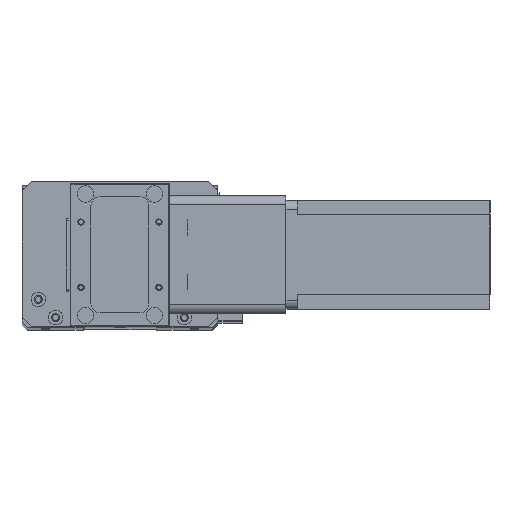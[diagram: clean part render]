
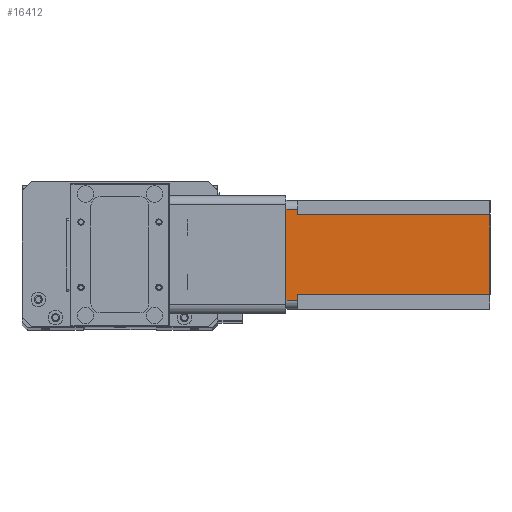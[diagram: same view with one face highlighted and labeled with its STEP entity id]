
A CAD part, top view. The second image highlights one B-rep face of the part: STEP entity #16412.
In plain terms, the highlighted planar face has unit normal (0, 0, 1) as drawn and (0, 1, 0) by its records, which use the part's own axes.
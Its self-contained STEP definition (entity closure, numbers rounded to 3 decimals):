
#187 = VECTOR ( 'NONE', #3103, 1000. ) ;
#1024 = CARTESIAN_POINT ( 'NONE',  ( 8., 60., -6.5 ) ) ;
#1511 = CARTESIAN_POINT ( 'NONE',  ( 52., 60., -6.5 ) ) ;
#1682 = EDGE_CURVE ( 'NONE', #12424, #18922, #6276, .T. ) ;
#1747 = DIRECTION ( 'NONE',  ( 0., 0., -1. ) ) ;
#1834 = ORIENTED_EDGE ( 'NONE', *, *, #15744, .F. ) ;
#2013 = ORIENTED_EDGE ( 'NONE', *, *, #17246, .F. ) ;
#2150 = CARTESIAN_POINT ( 'NONE',  ( 5., 60., 0. ) ) ;
#3103 = DIRECTION ( 'NONE',  ( -1., 0., 0. ) ) ;
#3205 = EDGE_CURVE ( 'NONE', #4960, #9604, #12959, .T. ) ;
#3436 = EDGE_CURVE ( 'NONE', #16788, #16448, #25509, .T. ) ;
#3839 = DIRECTION ( 'NONE',  ( -1., 0., 0. ) ) ;
#4960 = VERTEX_POINT ( 'NONE', #19496 ) ;
#4961 = DIRECTION ( 'NONE',  ( 0., 0., 1. ) ) ;
#6086 = LINE ( 'NONE', #6411, #16356 ) ;
#6088 = CARTESIAN_POINT ( 'NONE',  ( 0., 60., -112.5 ) ) ;
#6276 = LINE ( 'NONE', #1024, #187 ) ;
#6411 = CARTESIAN_POINT ( 'NONE',  ( 52., 60., -6.5 ) ) ;
#6953 = CARTESIAN_POINT ( 'NONE',  ( 0., 60., 0. ) ) ;
#7139 = ORIENTED_EDGE ( 'NONE', *, *, #3205, .T. ) ;
#7427 = VECTOR ( 'NONE', #10173, 1000. ) ;
#7479 = DIRECTION ( 'NONE',  ( 0., 0., 1. ) ) ;
#7484 = VECTOR ( 'NONE', #3839, 1000. ) ;
#7782 = VECTOR ( 'NONE', #23419, 1000. ) ;
#8089 = CARTESIAN_POINT ( 'NONE',  ( 55., 60., -112.5 ) ) ;
#8484 = DIRECTION ( 'NONE',  ( 1., 0., 0. ) ) ;
#9230 = EDGE_LOOP ( 'NONE', ( #24917, #19912, #16498, #2013, #7139, #1834, #26001, #14690 ) ) ;
#9604 = VERTEX_POINT ( 'NONE', #20096 ) ;
#10173 = DIRECTION ( 'NONE',  ( 0., 0., -1. ) ) ;
#10217 = DIRECTION ( 'NONE',  ( 0., 1., 0. ) ) ;
#11375 = FACE_OUTER_BOUND ( 'NONE', #9230, .T. ) ;
#11562 = EDGE_CURVE ( 'NONE', #14194, #13414, #6086, .T. ) ;
#12424 = VERTEX_POINT ( 'NONE', #22280 ) ;
#12959 = LINE ( 'NONE', #18165, #7484 ) ;
#13034 = LINE ( 'NONE', #23958, #13681 ) ;
#13414 = VERTEX_POINT ( 'NONE', #25791 ) ;
#13681 = VECTOR ( 'NONE', #7479, 1000. ) ;
#14179 = AXIS2_PLACEMENT_3D ( 'NONE', #6088, #10217, #24623 ) ;
#14194 = VERTEX_POINT ( 'NONE', #1511 ) ;
#14268 = PLANE ( 'NONE',  #14179 ) ;
#14690 = ORIENTED_EDGE ( 'NONE', *, *, #15635, .T. ) ;
#15260 = VECTOR ( 'NONE', #1747, 1000. ) ;
#15635 = EDGE_CURVE ( 'NONE', #18922, #16448, #13034, .T. ) ;
#15744 = EDGE_CURVE ( 'NONE', #12424, #9604, #25582, .T. ) ;
#16356 = VECTOR ( 'NONE', #8484, 1000. ) ;
#16412 = ADVANCED_FACE ( 'NONE', ( #11375 ), #14268, .T. ) ;
#16448 = VERTEX_POINT ( 'NONE', #2150 ) ;
#16498 = ORIENTED_EDGE ( 'NONE', *, *, #11562, .F. ) ;
#16788 = VERTEX_POINT ( 'NONE', #19486 ) ;
#17246 = EDGE_CURVE ( 'NONE', #4960, #14194, #23557, .T. ) ;
#17417 = VECTOR ( 'NONE', #4961, 1000. ) ;
#18165 = CARTESIAN_POINT ( 'NONE',  ( 0., 60., -112.5 ) ) ;
#18922 = VERTEX_POINT ( 'NONE', #20907 ) ;
#19320 = CARTESIAN_POINT ( 'NONE',  ( 52., 60., -112.5 ) ) ;
#19486 = CARTESIAN_POINT ( 'NONE',  ( 55., 60., 0. ) ) ;
#19496 = CARTESIAN_POINT ( 'NONE',  ( 52., 60., -112.5 ) ) ;
#19912 = ORIENTED_EDGE ( 'NONE', *, *, #21515, .T. ) ;
#20096 = CARTESIAN_POINT ( 'NONE',  ( 8., 60., -112.5 ) ) ;
#20907 = CARTESIAN_POINT ( 'NONE',  ( 5., 60., -6.5 ) ) ;
#21515 = EDGE_CURVE ( 'NONE', #16788, #13414, #23854, .T. ) ;
#22280 = CARTESIAN_POINT ( 'NONE',  ( 8., 60., -6.5 ) ) ;
#23419 = DIRECTION ( 'NONE',  ( -1., 0., 0. ) ) ;
#23557 = LINE ( 'NONE', #19320, #17417 ) ;
#23854 = LINE ( 'NONE', #8089, #7427 ) ;
#23958 = CARTESIAN_POINT ( 'NONE',  ( 5., 60., -112.5 ) ) ;
#24394 = CARTESIAN_POINT ( 'NONE',  ( 8., 60., -112.5 ) ) ;
#24623 = DIRECTION ( 'NONE',  ( 0., 0., 1. ) ) ;
#24917 = ORIENTED_EDGE ( 'NONE', *, *, #3436, .F. ) ;
#25509 = LINE ( 'NONE', #6953, #7782 ) ;
#25582 = LINE ( 'NONE', #24394, #15260 ) ;
#25791 = CARTESIAN_POINT ( 'NONE',  ( 55., 60., -6.5 ) ) ;
#26001 = ORIENTED_EDGE ( 'NONE', *, *, #1682, .T. ) ;
